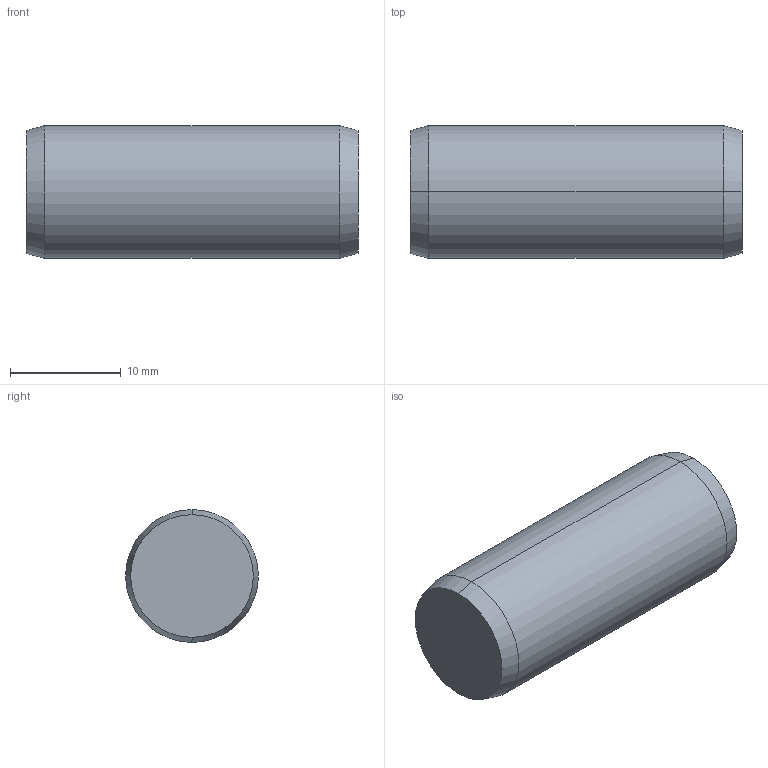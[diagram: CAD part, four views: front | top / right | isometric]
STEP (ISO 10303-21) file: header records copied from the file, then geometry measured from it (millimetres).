
FILE_DESCRIPTION (( 'STEP AP203' ), '1' );
FILE_NAME ('P1206.120-030.step', '2017-06-14T08:37:41', ( 'User' ), ( '' ), 'SwSTEP 2.0', 'SolidWorks 2009', '' );
FILE_SCHEMA (( 'CONFIG_CONTROL_DESIGN' ));
Length unit declared in the file: millimetre
Products named in the file (1): P1206.120-030
Bounding box: 30 x 12 x 12 mm (x, y, z)
Volume: 3364.5 mm3; surface area: 1323.6 mm2
Topology: 1 solids, 1 shells, 8 faces, 14 edges, 8 vertices
Faces by surface type: cone 4, cylinder 2, plane 2
Entity records: 271 total; most frequent: DIRECTION 40, CARTESIAN_POINT 31, ORIENTED_EDGE 28, AXIS2_PLACEMENT_3D 17, EDGE_CURVE 14, EDGE_LOOP 8, ADVANCED_FACE 8, VERTEX_POINT 8
